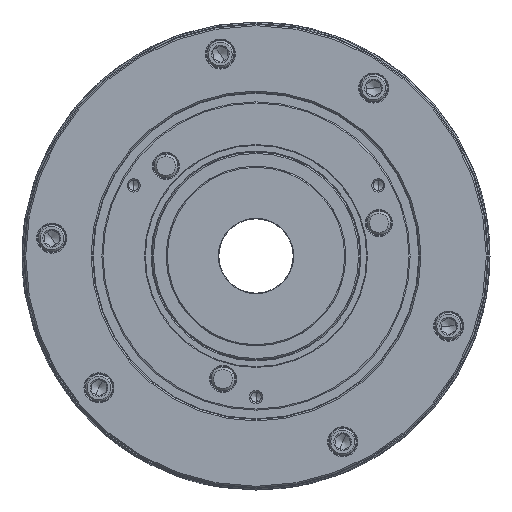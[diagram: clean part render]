
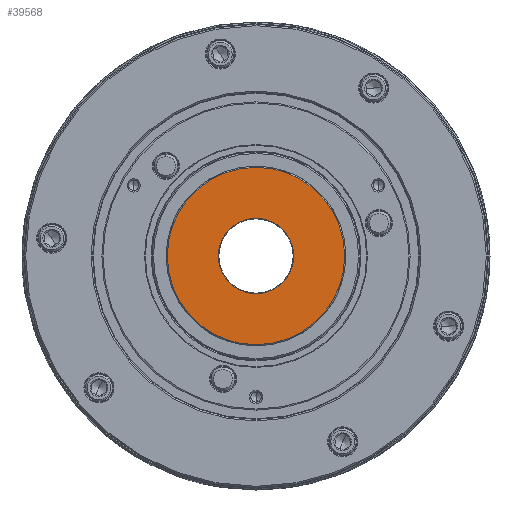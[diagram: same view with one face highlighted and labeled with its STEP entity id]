
A CAD part, left-side view. The second image highlights one B-rep face of the part: STEP entity #39568.
In plain terms, the highlighted planar face has unit normal (-1, 0, 0).
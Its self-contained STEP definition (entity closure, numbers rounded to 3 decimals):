
#4635 = FACE_OUTER_BOUND ( 'NONE', #22697, .T. ) ;
#6895 = CARTESIAN_POINT ( 'NONE',  ( -47., 0., 59.7 ) ) ;
#7199 = EDGE_CURVE ( 'NONE', #40714, #10256, #33762, .T. ) ;
#8813 = VERTEX_POINT ( 'NONE', #45613 ) ;
#10256 = VERTEX_POINT ( 'NONE', #6895 ) ;
#10306 = CIRCLE ( 'NONE', #37126, 25.4 ) ;
#11199 = CIRCLE ( 'NONE', #15619, 25.4 ) ;
#11414 = AXIS2_PLACEMENT_3D ( 'NONE', #28443, #53121, #53671 ) ;
#12019 = AXIS2_PLACEMENT_3D ( 'NONE', #54358, #19880, #15659 ) ;
#12371 = DIRECTION ( 'NONE',  ( 0., 0., 1. ) ) ;
#12560 = CARTESIAN_POINT ( 'NONE',  ( -47., 0., -59.7 ) ) ;
#15392 = EDGE_CURVE ( 'NONE', #10256, #40714, #54111, .T. ) ;
#15619 = AXIS2_PLACEMENT_3D ( 'NONE', #49951, #16545, #12371 ) ;
#15659 = DIRECTION ( 'NONE',  ( 0., 0., 1. ) ) ;
#16545 = DIRECTION ( 'NONE',  ( -1., 0., 0. ) ) ;
#16910 = ORIENTED_EDGE ( 'NONE', *, *, #15392, .T. ) ;
#16914 = CARTESIAN_POINT ( 'NONE',  ( -47., 0., 0. ) ) ;
#17781 = AXIS2_PLACEMENT_3D ( 'NONE', #21726, #34632, #29037 ) ;
#18172 = EDGE_LOOP ( 'NONE', ( #35635, #32641 ) ) ;
#19032 = EDGE_CURVE ( 'NONE', #8813, #39900, #10306, .T. ) ;
#19880 = DIRECTION ( 'NONE',  ( -1., 0., 0. ) ) ;
#21726 = CARTESIAN_POINT ( 'NONE',  ( -47., 59.7, 0. ) ) ;
#22697 = EDGE_LOOP ( 'NONE', ( #46167, #16910 ) ) ;
#28443 = CARTESIAN_POINT ( 'NONE',  ( -47., 0., 0. ) ) ;
#29037 = DIRECTION ( 'NONE',  ( 0., 0., -1. ) ) ;
#31097 = EDGE_CURVE ( 'NONE', #39900, #8813, #11199, .T. ) ;
#32641 = ORIENTED_EDGE ( 'NONE', *, *, #31097, .F. ) ;
#33430 = CARTESIAN_POINT ( 'NONE',  ( -47., 0., -25.4 ) ) ;
#33762 = CIRCLE ( 'NONE', #11414, 59.7 ) ;
#34041 = DIRECTION ( 'NONE',  ( -1., 0., 0. ) ) ;
#34632 = DIRECTION ( 'NONE',  ( 1., 0., 0. ) ) ;
#35635 = ORIENTED_EDGE ( 'NONE', *, *, #19032, .F. ) ;
#37126 = AXIS2_PLACEMENT_3D ( 'NONE', #16914, #34041, #50585 ) ;
#39568 = ADVANCED_FACE ( 'NONE', ( #55377, #4635 ), #42191, .F. ) ;
#39900 = VERTEX_POINT ( 'NONE', #33430 ) ;
#40714 = VERTEX_POINT ( 'NONE', #12560 ) ;
#42191 = PLANE ( 'NONE',  #17781 ) ;
#45613 = CARTESIAN_POINT ( 'NONE',  ( -47., 0., 25.4 ) ) ;
#46167 = ORIENTED_EDGE ( 'NONE', *, *, #7199, .T. ) ;
#49951 = CARTESIAN_POINT ( 'NONE',  ( -47., 0., 0. ) ) ;
#50585 = DIRECTION ( 'NONE',  ( 0., 0., 1. ) ) ;
#53121 = DIRECTION ( 'NONE',  ( -1., 0., 0. ) ) ;
#53671 = DIRECTION ( 'NONE',  ( 0., 0., 1. ) ) ;
#54111 = CIRCLE ( 'NONE', #12019, 59.7 ) ;
#54358 = CARTESIAN_POINT ( 'NONE',  ( -47., 0., 0. ) ) ;
#55377 = FACE_BOUND ( 'NONE', #18172, .T. ) ;
